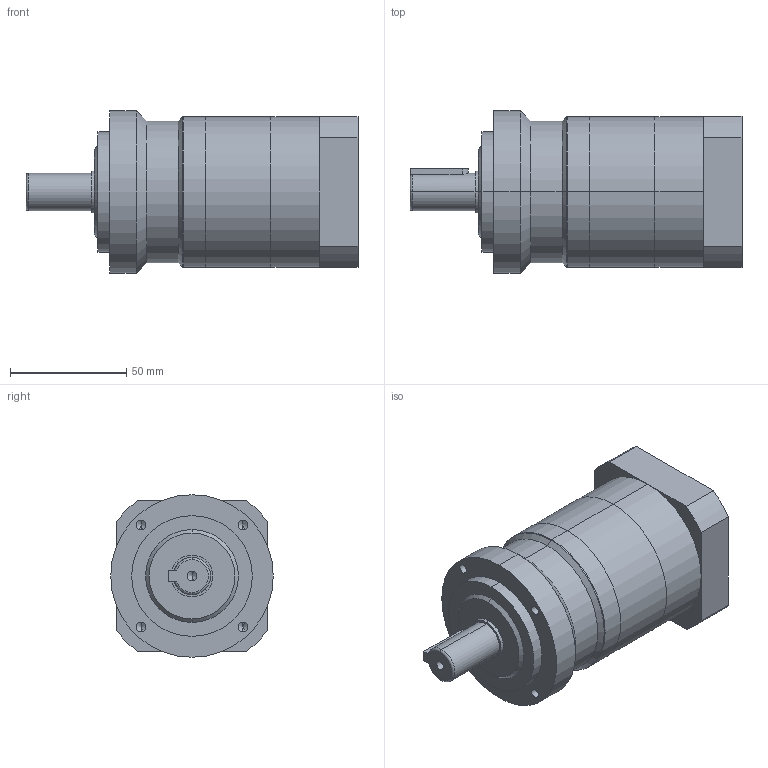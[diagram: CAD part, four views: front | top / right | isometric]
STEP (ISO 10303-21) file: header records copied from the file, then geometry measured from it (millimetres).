
FILE_DESCRIPTION (( 'STEP AP203' ), '1' );
FILE_NAME ('TL-060-L2-14-50-70-M5.STEP', '2025-06-05T02:21:03', ( 'Microsoft' ), ( 'Microsoft' ), 'SwSTEP 2.0', 'SolidWorks 2016', '' );
FILE_SCHEMA (( 'CONFIG_CONTROL_DESIGN' ));
Length unit declared in the file: millimetre
Products named in the file (1): TL-060-L2-14-50-70-M5
Bounding box: 143 x 70 x 70 mm (x, y, z)
Volume: 356171.4 mm3; surface area: 61072.6 mm2
Topology: 5 solids, 5 shells, 104 faces, 227 edges, 131 vertices
Faces by surface type: cylinder 49, plane 28, cone 24, torus 3
Entity records: 2834 total; most frequent: DIRECTION 525, CARTESIAN_POINT 494, ORIENTED_EDGE 418, AXIS2_PLACEMENT_3D 214, EDGE_CURVE 209, VERTEX_POINT 131, EDGE_LOOP 120, CIRCLE 109
